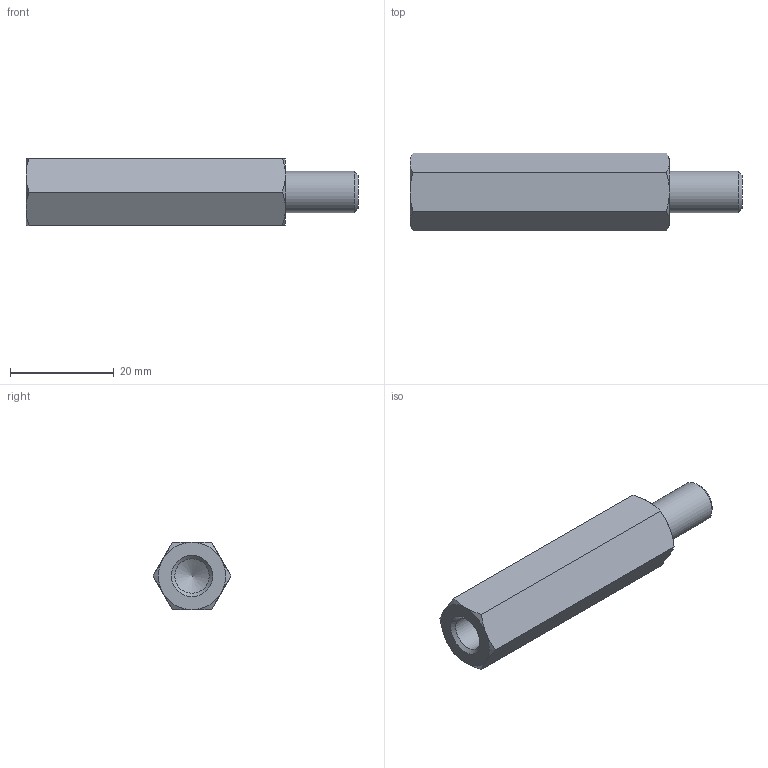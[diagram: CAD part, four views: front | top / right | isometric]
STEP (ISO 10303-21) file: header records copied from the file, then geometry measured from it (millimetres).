
FILE_DESCRIPTION( ( 'STEP AP203' ), '1' );
FILE_NAME( 'C:/Temp/Ganter_Step_05_03_2020/data/3_2/gn6220/gn6220_ni/Stainless Steel-Spacer GN 6220-NI-M8-50-B.stp', '2020-03-13T05:43:19', ( 'License CC BY-ND 4.0' ), ( 'CADENAS' ), ' ', 'PARTsolutions', ' ' );
FILE_SCHEMA( ( 'CONFIG_CONTROL_DESIGN' ) );
Length unit declared in the file: millimetre
Products named in the file (1): _Stainless Steel-Spacer GN 6220-NI-M8-50-B
Bounding box: 64 x 15.01 x 13 mm (x, y, z)
Volume: 7280.8 mm3; surface area: 3290.4 mm2
Topology: 1 solids, 1 shells, 26 faces, 55 edges, 32 vertices
Faces by surface type: cone 15, plane 9, cylinder 2
Full cylindrical faces by diameter (mm): 6.647 x1, 8 x1
Entity records: 778 total; most frequent: CARTESIAN_POINT 242, DIRECTION 96, ORIENTED_EDGE 96, EDGE_CURVE 48, AXIS2_PLACEMENT_3D 45, EDGE_LOOP 32, VERTEX_POINT 31, FACE_OUTER_BOUND 28
